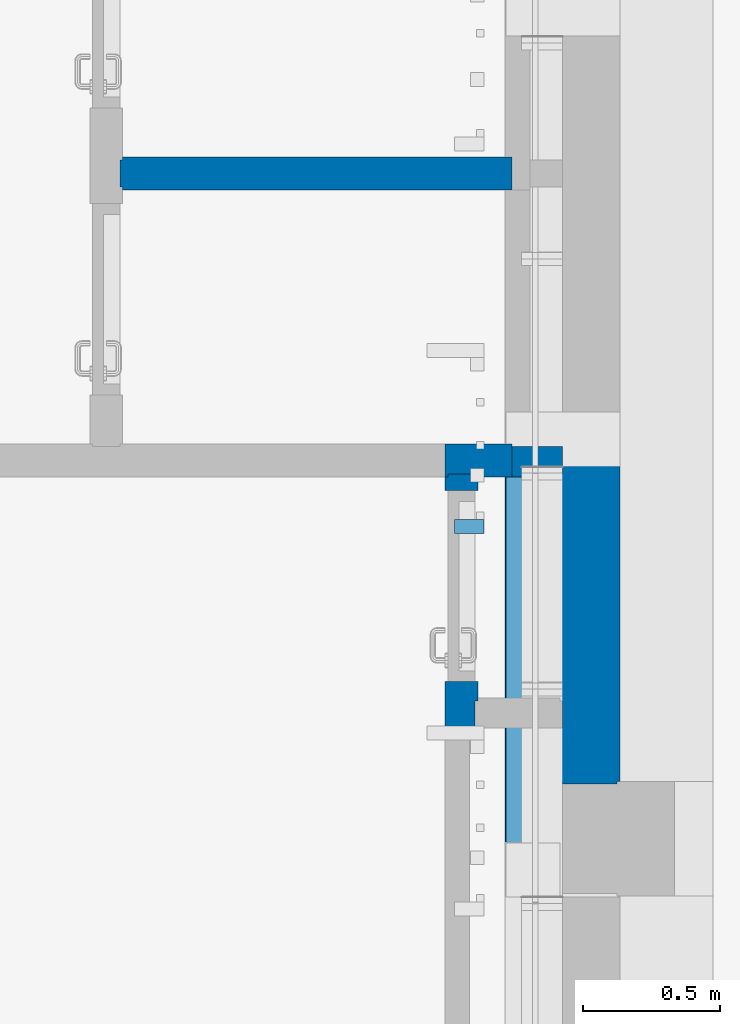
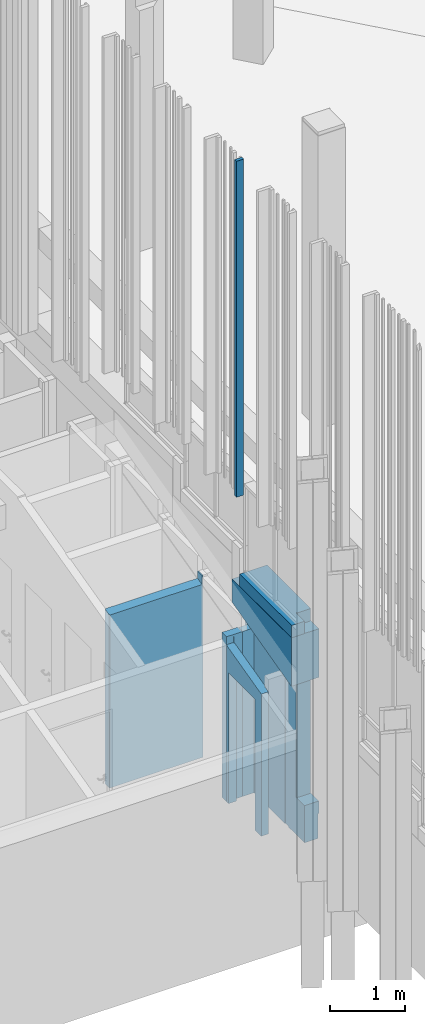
# One storey, part 119 of 390: 8 walls.
"""IFC2X3 building model written with IfcOpenShell, lengths in millimetres."""

from ifc_helpers import new_model, entity, si_unit, converted_unit, derived_unit, money_unit, direction, frame, origin_with_axes, place, context, subcontext, project, spatial, faceted_brep, material, material_list, type_object, element, save


model = new_model("IFC2X3")

# Units and contexts
model_context = context("Model", 3, precision=1e-05, world=origin_with_axes(), true_north=direction((0.0, 1.0)))
body_context = subcontext(model_context, "Body", "Model", "MODEL_VIEW")
ifc_project = project(units=[si_unit("LENGTHUNIT", "METRE", prefix="MILLI"), si_unit("AREAUNIT", "SQUARE_METRE"), si_unit("VOLUMEUNIT", "CUBIC_METRE"), converted_unit("PLANEANGLEUNIT", "DEGREE", entity("IfcPlaneAngleMeasure", 0.0174532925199), si_unit("PLANEANGLEUNIT", "RADIAN"), dimensions=[0, 0, 0, 0, 0, 0, 0]), si_unit("SOLIDANGLEUNIT", "STERADIAN"), money_unit("EUR"), converted_unit("TIMEUNIT", "Year", entity("IfcTimeMeasure", 31556926.0), si_unit("TIMEUNIT", "SECOND"), dimensions=[0, 0, 1, 0, 0, 0, 0]), si_unit("MASSUNIT", "GRAM", prefix="KILO"), si_unit("THERMODYNAMICTEMPERATUREUNIT", "DEGREE_CELSIUS"), si_unit("LUMINOUSINTENSITYUNIT", "LUMEN"), si_unit("ENERGYUNIT", "JOULE", prefix="MEGA"), derived_unit("THERMALCONDUCTANCEUNIT", [(si_unit("POWERUNIT", "WATT"), 1), (si_unit("LENGTHUNIT", "METRE"), -1), (si_unit("THERMODYNAMICTEMPERATUREUNIT", "KELVIN"), -1)]), derived_unit("SPECIFICHEATCAPACITYUNIT", [(si_unit("ENERGYUNIT", "JOULE"), 1), (si_unit("MASSUNIT", "GRAM", prefix="KILO"), -1), (si_unit("THERMODYNAMICTEMPERATUREUNIT", "KELVIN"), -1)]), derived_unit("MASSDENSITYUNIT", [(si_unit("MASSUNIT", "GRAM", prefix="KILO"), 1), (si_unit("VOLUMEUNIT", "CUBIC_METRE"), -1)])], contexts=[model_context])

# Site, building, storey
site_placement = place(None, origin_with_axes())
site = spatial("IfcSite", under=ifc_project, at=site_placement, Name="Site", CompositionType="ELEMENT")
building_placement = place(site_placement, origin_with_axes())
building = spatial("IfcBuilding", under=site, at=building_placement, Name="Building", CompositionType="ELEMENT")
storey_placement = place(building_placement, origin_with_axes())
storey = spatial("IfcBuildingStorey", under=building, at=storey_placement, Name="1 korrus", CompositionType="ELEMENT", Elevation=0.0)

# Walls
ifc_material_1 = material(Name="Krohv - Lubjakivi")
ifc_material_2 = material(Name="Raudbetoon - Konstruktsioon")
ifc_material_list_1 = material_list([ifc_material_1, ifc_material_2, ifc_material_1])
wall_type_1 = type_object("IfcWallType", Name="SS-10", PredefinedType="NOTDEFINED")
wall_1_placement = place(storey_placement, frame((122909.999995, 59662.5685601, -620.0), z_axis=(0.0, 0.0, 1.0), x_axis=(0.0, 1.0, 0.0)))
element("IfcWall", 1, at=wall_1_placement, inside=storey, type_object=wall_type_1, material=ifc_material_list_1, Name="SS-10", context=body_context, shape_type="Brep", body=[
    faceted_brep([(1575.0, 220.000000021, 3013.57978723), (1575.0, 210.000000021, 3013.57978723), (1575.0, 210.000000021, 0.0), (1575.0, 220.000000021, 0.0), (222.431452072, 210.000000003, 2661.006664), (222.431452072, 219.999998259, 2661.006664), (222.431452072, 210.000000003, 600.0), (212.431452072, 209.999998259, 600.0), (-2.81374923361e-09, 209.999998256, 600.0), (-2.81374923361e-09, 210.0, 0.0), (417.43145005, 210.000000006, 0.0), (417.43145005, 210.000000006, 2500.0), (517.43145005, 210.000000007, 2500.0), (517.43145005, 210.000000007, 0.0), (1347.4314428, 210.000000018, 0.0), (1347.4314428, 210.000000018, 2672.90848696), (1447.4314428, 210.000000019, 2672.90848696), (1447.4314428, 210.000000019, 0.0), (1447.4314428, 220.000000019, 0.0), (1447.4314428, 220.000000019, 2672.90848696), (1347.4314428, 220.000000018, 2672.90848696), (1347.4314428, 220.000000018, 0.0), (517.43145005, 220.000000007, 0.0), (517.43145005, 220.000000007, 2500.0), (417.43145005, 220.000000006, 2500.0), (417.43145005, 220.000000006, 0.0), (-2.9487523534e-09, 220.0, 0.0), (-2.9487523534e-09, 219.999998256, 600.0), (222.431452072, 219.999998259, 600.0)], [[[0, 1, 2, 3]], [[4, 1, 0, 5]], [[1, 4, 6, 7, 8, 9, 10, 11, 12, 13, 14, 15, 16, 17, 2]], [[3, 2, 17, 18]], [[5, 0, 3, 18, 19, 20, 21, 22, 23, 24, 25, 26, 27, 28]], [[4, 5, 28, 6]], [[8, 7, 6, 28, 27]], [[9, 8, 27, 26]], [[9, 26, 25, 10]], [[25, 24, 11, 10]], [[24, 23, 12, 11]], [[23, 22, 13, 12]], [[13, 22, 21, 14]], [[21, 20, 15, 14]], [[20, 19, 16, 15]], [[19, 18, 17, 16]]]),
    faceted_brep([(1575.0, 210.000000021, 3013.57978723), (1575.0, 10.0000000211, 3013.57978721), (1575.0, 10.0000000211, 0.0), (1575.0, 210.000000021, 0.0), (212.431452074, 10.0000000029, 2658.39997079), (212.431452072, 209.999998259, 2658.3999708), (212.431452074, 10.0000000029, 600.0), (-1.35003119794e-10, 10.0, 600.0), (-1.35003119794e-10, 10.0, 0.0), (-2.81374923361e-09, 210.0, 0.0), (-2.81374923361e-09, 209.999998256, 600.0), (212.431452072, 209.999998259, 600.0)], [[[0, 1, 2, 3]], [[4, 1, 0, 5]], [[1, 4, 6, 7, 8, 2]], [[8, 9, 3, 2]], [[5, 0, 3, 9, 10, 11]], [[4, 5, 11, 6]], [[10, 7, 6, 11]], [[8, 7, 10, 9]]]),
    faceted_brep([(1575.0, 9.99999995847, 3013.57978721), (1575.0, 2.11173301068e-08, 3013.57978721), (1575.0, 2.11173301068e-08, 400.0), (1575.0, 9.99999705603, 400.0), (222.431452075, 2.98427949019e-09, 2661.00666398), (222.431452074, 9.99999951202, 2661.00666398), (222.431452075, 2.98427949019e-09, 600.0), (0.0, 0.0, 600.0), (0.0, 0.0, 400.0), (-1.35003119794e-10, 9.99999708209, 400.0), (-1.35003119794e-10, 9.99999730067, 600.0), (222.431452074, 9.99999703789, 600.0)], [[[0, 1, 2, 3]], [[4, 1, 0, 5]], [[1, 4, 6, 7, 8, 2]], [[8, 9, 3, 2]], [[5, 0, 3, 9, 10, 11]], [[4, 5, 11, 6]], [[7, 6, 11, 10]], [[8, 7, 10, 9]]]),
])
ifc_material_3 = material(Name="Membraan - Veekindel")
ifc_material_4 = material(Name="Soojustus - Plastik Kõva")
ifc_material_list_2 = material_list([ifc_material_3, ifc_material_3, ifc_material_4, ifc_material_4, ifc_material_2, ifc_material_1])
wall_type_2 = type_object("IfcWallType", Name="VS-03", PredefinedType="NOTDEFINED")
wall_2_placement = place(storey_placement, frame((122909.999995, 59662.5685601, 1983.02560869), z_axis=(0.0, 0.0, 1.0), x_axis=(0.0, 1.0, 0.0)))
element("IfcWall", 2, at=wall_2_placement, inside=storey, type_object=wall_type_2, material=ifc_material_list_2, Name="VS-03", context=body_context, shape_type="Brep", body=[
    faceted_brep([(-1.25339738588e-08, 415.0, 2.67386113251e-08), (1574.99999999, 415.000000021, 410.554178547), (1574.99999999, 415.000000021, 786.974391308), (-5.563549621e-09, 415.0, 786.974391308), (1574.99999999, 420.000000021, 410.554178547), (-1.26831878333e-08, 420.0, 2.70610200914e-08), (1574.99999999, 420.000000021, 786.974391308), (-5.62749846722e-09, 420.0, 786.974391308)], [[[0, 1, 2, 3]], [[4, 1, 0, 5]], [[1, 4, 6, 2]], [[3, 2, 6, 7]], [[5, 0, 3, 7]], [[4, 5, 7, 6]]]),
    faceted_brep([(-1.23776544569e-08, 410.0, 2.64166466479e-08), (1574.99999999, 410.000000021, 410.554178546), (1574.99999999, 410.000000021, 786.974391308), (-5.49249534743e-09, 410.0, 786.974391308), (1574.99999999, 415.000000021, 410.554178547), (-1.25339738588e-08, 415.0, 2.67386113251e-08), (1574.99999999, 415.000000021, 786.974391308), (-5.563549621e-09, 415.0, 786.974391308)], [[[0, 1, 2, 3]], [[4, 1, 0, 5]], [[1, 4, 6, 2]], [[3, 2, 6, 7]], [[5, 0, 3, 7]], [[4, 5, 7, 6]]]),
    faceted_brep([(-1.08713038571e-08, 360.0, 2.31950014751e-08), (1574.99999999, 360.000000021, 410.554178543), (1574.99999999, 360.000000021, 786.974391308), (-4.82458517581e-09, 360.0, 786.974391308), (1574.99999999, 410.000000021, 410.554178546), (-1.23776544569e-08, 410.0, 2.64166466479e-08), (1574.99999999, 410.000000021, 786.974391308), (-5.49249534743e-09, 410.0, 786.974391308)], [[[0, 1, 2, 3]], [[4, 1, 0, 5]], [[1, 4, 6, 2]], [[3, 2, 6, 7]], [[5, 0, 3, 7]], [[4, 5, 7, 6]]]),
    faceted_brep([(-6.33804120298e-09, 210.0, 1.35309541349e-08), (1574.99999999, 210.000000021, 410.554178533), (1574.99999999, 210.000000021, 786.974391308), (-2.81374923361e-09, 210.0, 786.974391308), (1574.99999999, 360.000000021, 410.554178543), (-1.08713038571e-08, 360.0, 2.31950014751e-08), (1574.99999999, 360.000000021, 786.974391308), (-4.82458517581e-09, 360.0, 786.974391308)], [[[0, 1, 2, 3]], [[4, 1, 0, 5]], [[1, 4, 6, 2]], [[3, 2, 6, 7]], [[5, 0, 3, 7]], [[4, 5, 7, 6]]]),
    faceted_brep([(-3.05533376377e-10, 10.0, 6.45483666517e-10), (1574.99999999, 10.0000000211, 410.554178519), (1574.99999999, 10.0000000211, 786.974391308), (-1.35003119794e-10, 10.0, 786.974391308), (1574.99999999, 210.000000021, 410.554178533), (-6.33804120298e-09, 210.0, 1.35309541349e-08), (1574.99999999, 210.000000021, 786.974391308), (-2.81374923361e-09, 210.0, 786.974391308)], [[[0, 1, 2, 3]], [[4, 1, 0, 5]], [[1, 4, 6, 2]], [[3, 2, 6, 7]], [[5, 0, 3, 7]], [[4, 5, 7, 6]]]),
    faceted_brep([(0.0, 0.0, 0.0), (1574.99999999, 2.11173301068e-08, 410.554178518), (1574.99999999, 2.11173301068e-08, 786.974391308), (0.0, 0.0, 786.974391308), (1574.99999999, 10.0000000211, 410.554178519), (-3.05533376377e-10, 10.0, 6.45483666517e-10), (1574.99999999, 10.0000000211, 786.974391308), (-1.35003119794e-10, 10.0, 786.974391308)], [[[0, 1, 2, 3]], [[4, 1, 0, 5]], [[1, 4, 6, 2]], [[3, 2, 6, 7]], [[5, 0, 3, 7]], [[4, 5, 7, 6]]]),
])
ifc_material_5 = material(Name="Site specified")
wall_type_3 = type_object("IfcWallType", Name="Puitfassaadi ribistik", PredefinedType="NOTDEFINED")
wall_3_placement = place(storey_placement, frame((122358.499996, 60817.9999924, 4424.99966101), z_axis=(0.0, 0.0, 1.0), x_axis=(0.0, 1.0, 0.0)))
element("IfcWall", 3, at=wall_3_placement, inside=storey, type_object=wall_type_3, material=ifc_material_5, Name="Site specified", context=body_context, shape_type="Brep", body=[
    faceted_brep([(25.0, 54.5, 5440.00033899), (25.0, 54.5, 0.0), (-25.0, 54.5, 0.0), (-25.0, 54.5, 5440.00033899), (25.0, -54.5, 5440.00033899), (25.0, -54.5, 0.0), (-25.0, -54.5, 0.0), (-25.0, -54.5, 5440.00033899)], [[[0, 1, 2, 3]], [[4, 5, 1, 0]], [[2, 1, 5, 6]], [[3, 2, 6, 7]], [[4, 0, 3, 7]], [[7, 6, 5, 4]]]),
])
ifc_material_6 = material(Name="Plaat - Sein")
ifc_material_list_3 = material_list([ifc_material_6, ifc_material_4, ifc_material_4, ifc_material_2, ifc_material_1])
wall_type_4 = type_object("IfcWallType", Name="VS-05", PredefinedType="NOTDEFINED")
wall_4_placement = place(storey_placement, frame((122909.999995, 59660.137108, 2770.0), z_axis=(0.0, 0.0, 1.0), x_axis=(0.0, 1.0, 0.0)))
element("IfcWall", 4, at=wall_4_placement, inside=storey, type_object=wall_type_4, material=ifc_material_list_3, Name="VS-05", context=body_context, shape_type="Brep", body=[
    faceted_brep([(1377.43145207, 418.000000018, 0.0), (1377.43145207, 410.000000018, 0.0), (-5.49249534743e-09, 410.0, 0.0), (-5.59907675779e-09, 418.0, 0.0), (1377.43145207, 418.000000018, 200.0), (1377.43145207, 410.000000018, 200.0), (-5.49249534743e-09, 410.0, 200.0), (-5.59907675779e-09, 418.0, 200.0)], [[[0, 1, 2, 3]], [[0, 4, 5, 1]], [[1, 5, 6, 2]], [[3, 2, 6, 7]], [[4, 0, 3, 7]], [[5, 4, 7, 6]]]),
    faceted_brep([(1377.43145207, 410.000000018, 0.0), (1377.43145208, 360.000000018, 0.0), (-4.82458517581e-09, 360.0, 0.0), (-5.49249534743e-09, 410.0, 0.0), (1377.43145207, 410.000000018, 200.0), (1377.43145208, 360.000000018, 200.0), (-4.82458517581e-09, 360.0, 200.0), (-5.49249534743e-09, 410.0, 200.0)], [[[0, 1, 2, 3]], [[0, 4, 5, 1]], [[1, 5, 6, 2]], [[3, 2, 6, 7]], [[4, 0, 3, 7]], [[5, 4, 7, 6]]]),
    faceted_brep([(-2.9487523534e-09, 219.999998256, 200.0), (224.862904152, 219.999998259, 200.0), (224.862904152, 210.000000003, 200.0), (1377.43145208, 210.000000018, 200.0), (1377.43145208, 360.000000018, 200.0), (-4.82458517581e-09, 360.0, 200.0), (-2.9487523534e-09, 219.999998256, 0.0), (224.862904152, 219.999998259, 0.0), (224.862904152, 210.000000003, 0.0), (1377.43145208, 210.000000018, 0.0), (1377.43145208, 360.000000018, 0.0), (-4.82458517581e-09, 360.0, 0.0)], [[[0, 1, 2, 3, 4, 5]], [[1, 0, 6, 7]], [[8, 2, 1, 7]], [[2, 8, 9, 3]], [[9, 10, 4, 3]], [[5, 4, 10, 11]], [[6, 0, 5, 11]], [[7, 6, 11, 10, 9, 8]]]),
    faceted_brep([(214.862904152, 209.999998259, 200.0), (214.862904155, 10.0000000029, 200.0), (1377.43145208, 10.0000000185, 200.0), (1377.43145208, 210.000000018, 200.0), (214.862904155, 10.0000000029, 0.0), (214.862904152, 209.999998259, 0.0), (1377.43145208, 10.0000000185, 0.0), (1377.43145208, 210.000000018, 0.0)], [[[0, 1, 2, 3]], [[4, 1, 0, 5]], [[1, 4, 6, 2]], [[6, 7, 3, 2]], [[5, 0, 3, 7]], [[4, 5, 7, 6]]]),
    faceted_brep([(224.862904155, 10.000000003, 200.0), (224.862904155, 3.01270119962e-09, 200.0), (1377.43145208, 1.8459900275e-08, 200.0), (1377.43145208, 10.0000000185, 200.0), (224.862904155, 3.01270119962e-09, 0.0), (224.862904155, 10.000000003, 0.0), (1377.43145208, 1.8459900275e-08, 0.0), (1377.43145208, 10.0000000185, 0.0)], [[[0, 1, 2, 3]], [[4, 1, 0, 5]], [[1, 4, 6, 2]], [[6, 7, 3, 2]], [[5, 0, 3, 7]], [[4, 5, 7, 6]]]),
])
ifc_material_7 = material(Name="Müüriplokk - Konstuktsioon")
ifc_material_list_4 = material_list([ifc_material_1, ifc_material_7, ifc_material_1])
wall_type_5 = type_object("IfcWallType", Name="SS-07", PredefinedType="NOTDEFINED")
wall_5_placement = place(storey_placement, frame((122269.999996, 61000.0000029, -620.0), z_axis=(0.0, 0.0, 1.0), x_axis=(1.0, 0.0, 0.0)))
element("IfcWall", 5, at=wall_5_placement, inside=storey, type_object=wall_type_5, material=ifc_material_list_4, Name="SS-07", context=body_context, shape_type="Brep", body=[
    faceted_brep([(244.000003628, 110.000000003, 0.0), (-1.47792889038e-09, 110.0, 0.0), (-1.60582658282e-09, 120.0, 0.0), (244.000003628, 120.000000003, 0.0), (244.000003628, 110.000000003, 2672.90848696), (-1.47792889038e-09, 110.0, 2672.90848696), (-1.60582658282e-09, 120.0, 2672.90848696), (244.000003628, 120.000000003, 2672.90848696)], [[[0, 1, 2, 3]], [[4, 5, 1, 0]], [[2, 1, 5, 6]], [[3, 2, 6, 7]], [[3, 7, 4, 0]], [[7, 6, 5, 4]]]),
    faceted_brep([(244.000003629, 10.0000000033, 0.0), (-1.27897692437e-10, 10.0, 0.0), (-1.47792889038e-09, 110.0, 0.0), (244.000003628, 110.000000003, 0.0), (244.000003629, 10.0000000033, 2672.90848696), (-1.27897692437e-10, 10.0, 2672.90848696), (-1.47792889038e-09, 110.0, 2672.90848696), (244.000003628, 110.000000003, 2672.90848696)], [[[0, 1, 2, 3]], [[4, 5, 1, 0]], [[2, 1, 5, 6]], [[3, 2, 6, 7]], [[3, 7, 4, 0]], [[7, 6, 5, 4]]]),
    faceted_brep([(10.0, 10.0000055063, 2641.62816777), (10.0, 10.0000055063, 0.0), (-1.27897692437e-10, 10.0, 0.0), (-1.27897692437e-10, 10.0, 2672.90848696), (244.000003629, 10.0000000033, 2672.90848696), (244.000003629, 10.0000000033, 0.0), (110.0, 10.0000055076, 0.0), (110.0, 10.0000055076, 2641.62816777), (9.99999998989, 1.35003119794e-10, 2641.62816777), (10.0000000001, 1.35003119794e-10, 0.0), (0.0, 0.0, 0.0), (0.0, 0.0, 2672.90848696), (244.00000363, 3.27560201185e-09, 2672.90848696), (244.00000363, 3.27560201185e-09, 0.0), (110.0, 1.47792889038e-09, 0.0), (110.000000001, 1.47792889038e-09, 2641.62816777)], [[[0, 1, 2, 3, 4, 5, 6, 7]], [[1, 0, 8, 9]], [[1, 9, 10, 2]], [[3, 2, 10, 11]], [[12, 4, 3, 11]], [[13, 5, 4, 12]], [[14, 6, 5, 13]], [[7, 6, 14, 15]], [[0, 7, 15, 8]], [[15, 14, 13, 12, 11, 10, 9, 8]]]),
])
ifc_material_list_5 = material_list([ifc_material_7, ifc_material_1])
wall_6_placement = place(storey_placement, frame((122514.0, 61110.0000029, -620.0), z_axis=(0.0, 0.0, 1.0), x_axis=(1.0, 0.0, 0.0)))
element("IfcWall", 6, at=wall_6_placement, inside=storey, type_object=wall_type_5, material=ifc_material_list_5, Name="SS-08", context=body_context, shape_type="Brep", body=[
    faceted_brep([(185.999995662, 2.50111042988e-09, 2672.90848696), (0.0, 0.0, 2672.90848696), (1.33582034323e-09, -100.0, 2672.90848696), (185.999995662, -99.9999999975, 2672.90848696), (185.999995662, 2.50111042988e-09, 0.0), (0.0, 0.0, 0.0), (1.33582034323e-09, -100.0, 0.0), (185.999995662, -99.9999999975, 0.0)], [[[0, 1, 2, 3]], [[4, 5, 1, 0]], [[2, 1, 5, 6]], [[3, 2, 6, 7]], [[3, 7, 4, 0]], [[7, 6, 5, 4]]]),
    faceted_brep([(175.999995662, -99.9999999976, 2672.90848696), (1.33582034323e-09, -100.0, 2672.90848696), (1.47792889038e-09, -110.0, 2672.90848696), (175.999995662, -109.999999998, 2672.90848696), (175.999995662, -99.9999999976, 0.0), (1.33582034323e-09, -100.0, 0.0), (1.47792889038e-09, -110.0, 0.0), (175.999995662, -109.999999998, 0.0)], [[[0, 1, 2, 3]], [[4, 5, 1, 0]], [[2, 1, 5, 6]], [[3, 2, 6, 7]], [[3, 7, 4, 0]], [[7, 6, 5, 4]]]),
])
wall_7_placement = place(storey_placement, frame((121079.999992, 62170.00001, -620.0), z_axis=(0.0, 0.0, 1.0), x_axis=(1.0, 0.0, 0.0)))
element("IfcWall", 7, at=wall_7_placement, inside=storey, type_object=wall_type_5, material=ifc_material_list_4, Name="SS-07", context=body_context, shape_type="Brep", body=[
    faceted_brep([(10.0, 0.0, 2832.04614431), (1420.00000772, 0.0, 2832.04614431), (1420.00000772, 0.0, 2946.61127132), (1434.00000625, 0.0, 2946.61127132), (1434.0000073, 0.0, 0.0), (10.0, 0.0, 0.0), (10.0, -10.0, 2829.50646785), (1420.00000772, -10.0, 2829.50646785), (1420.00000772, -10.0, 2946.61127132), (1434.00000624, -10.0, 2946.61127132), (1434.0000073, -10.0, 0.0), (10.0, -10.0, 0.0)], [[[0, 1, 2, 3, 4, 5]], [[1, 0, 6, 7]], [[8, 2, 1, 7]], [[2, 8, 9, 3]], [[4, 3, 9, 10]], [[5, 4, 10, 11]], [[6, 0, 5, 11]], [[7, 6, 11, 10, 9, 8]]]),
    faceted_brep([(0.0, -10.0, 2829.50646785), (1420.00000772, -10.0, 2829.50646785), (1420.00000772, -10.0, 2946.61127132), (1434.00000624, -10.0, 2946.61127132), (1434.0000073, -10.0, 0.0), (0.0, -10.0, 0.0), (0.0, -110.0, 2804.1097032), (1420.0000077, -110.0, 2804.1097032), (1420.0000077, -110.0, 2946.61127132), (1434.00000615, -110.0, 2946.61127132), (1434.0000073, -110.0, 0.0), (0.0, -110.0, 0.0)], [[[0, 1, 2, 3, 4, 5]], [[1, 0, 6, 7]], [[8, 2, 1, 7]], [[2, 8, 9, 3]], [[4, 3, 9, 10]], [[5, 4, 10, 11]], [[6, 0, 5, 11]], [[7, 6, 11, 10, 9, 8]]]),
    faceted_brep([(10.0, -110.0, 2804.1097032), (1420.0000077, -110.0, 2804.1097032), (1420.0000077, -110.0, 2946.61127132), (1434.00000615, -110.0, 2946.61127132), (1434.0000073, -110.0, 0.0), (10.0, -110.0, 0.0), (10.0, -120.0, 2801.57002674), (1420.0000077, -120.0, 2801.57002674), (1420.0000077, -120.0, 2946.61127132), (1434.00000614, -120.0, 2946.61127132), (1434.0000073, -120.0, 0.0), (10.0, -120.0, 0.0)], [[[0, 1, 2, 3, 4, 5]], [[1, 0, 6, 7]], [[8, 2, 1, 7]], [[2, 8, 9, 3]], [[4, 3, 9, 10]], [[5, 4, 10, 11]], [[6, 0, 5, 11]], [[7, 6, 11, 10, 9, 8]]]),
])
wall_8_placement = place(storey_placement, frame((122389.999996, 61010.0000084, -620.0), z_axis=(0.0, 0.0, 1.0), x_axis=(0.0, -1.0, 0.0)))
element("IfcWall", 8, at=wall_8_placement, inside=storey, type_object=wall_type_5, material=ifc_material_list_4, Name="SS-07", context=body_context, shape_type="Brep", body=[
    faceted_brep([(10.0000055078, -9.99999999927, 2534.90399614), (10.0000055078, -9.10915787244e-09, 2534.90399614), (10.0000055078, 1.27897692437e-10, 0.0), (10.0000055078, -9.99999999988, 0.0), (829.999998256, -8.21628987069e-07, 2326.65052787), (829.999998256, -9.99999993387, 2326.65052787), (829.999998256, 1.1127099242e-08, 0.0), (759.999998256, 1.01891828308e-08, 0.0), (759.999998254, -8.84611495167e-07, 20.0), (759.999998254, 1.01891828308e-08, 2120.0), (59.9999982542, 7.95807864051e-10, 2120.0), (59.9999982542, -8.94004870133e-07, 20.0), (59.9999982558, 7.95807864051e-10, 0.0), (59.9999982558, -9.99999999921, 0.0), (59.9999982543, -9.99999994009, 20.0), (59.9999982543, -9.99999994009, 2120.0), (759.999998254, -9.9999999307, 2120.0), (759.999998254, -9.9999999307, 20.0), (759.999998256, -9.99999998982, 0.0), (829.999998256, -9.99999998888, 0.0)], [[[0, 1, 2, 3]], [[4, 1, 0, 5]], [[1, 4, 6, 7, 8, 9, 10, 11, 12, 2]], [[12, 13, 3, 2]], [[5, 0, 3, 13, 14, 15, 16, 17, 18, 19]], [[4, 5, 19, 6]], [[18, 7, 6, 19]], [[18, 17, 8, 7]], [[16, 9, 8, 17]], [[15, 10, 9, 16]], [[14, 11, 10, 15]], [[12, 11, 14, 13]]]),
    faceted_brep([(5.50777201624e-06, -110.0, 2537.44367261), (5.50777912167e-06, -10.0, 2537.44367261), (5.50777912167e-06, -10.0, 0.0), (5.50777201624e-06, -110.0, 0.0), (929.999998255, -9.99999993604, 2301.25376323), (929.999998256, -110.000000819, 2301.25376323), (929.999998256, -9.99999998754, 0.0), (759.999998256, -9.99999998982, 0.0), (759.999998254, -9.9999999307, 20.0), (759.999998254, -9.99999998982, 2120.0), (59.9999982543, -9.99999999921, 2120.0), (59.9999982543, -9.99999994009, 20.0), (59.9999982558, -9.99999999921, 0.0), (59.9999982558, -109.999999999, 0.0), (59.9999982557, -109.999999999, 20.0), (59.9999982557, -109.999999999, 2120.0), (759.999998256, -109.99999999, 2120.0), (759.999998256, -109.99999999, 20.0), (759.999998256, -109.99999999, 0.0), (929.999998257, -109.999999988, 0.0)], [[[0, 1, 2, 3]], [[4, 1, 0, 5]], [[1, 4, 6, 7, 8, 9, 10, 11, 12, 2]], [[12, 13, 3, 2]], [[5, 0, 3, 13, 14, 15, 16, 17, 18, 19]], [[4, 5, 19, 6]], [[18, 7, 6, 19]], [[18, 17, 8, 7]], [[16, 9, 8, 17]], [[15, 10, 9, 16]], [[14, 11, 10, 15]], [[12, 11, 14, 13]]]),
    faceted_brep([(10.0000055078, -120.0, 2534.90399614), (10.0000055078, -110.00000001, 2534.90399614), (10.0000055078, -110.0, 0.0), (10.0000055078, -120.0, 0.0), (929.999998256, -110.000000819, 2301.25376323), (929.999998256, -119.999999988, 2301.25376323), (929.999998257, -109.999999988, 0.0), (759.999998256, -109.99999999, 0.0), (759.999998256, -109.99999999, 20.0), (759.999998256, -109.99999999, 2120.0), (59.9999982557, -109.999999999, 2120.0), (59.9999982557, -109.999999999, 20.0), (59.9999982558, -109.999999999, 0.0), (59.9999982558, -119.999999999, 0.0), (59.9999982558, -119.999999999, 20.0), (59.9999982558, -119.999999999, 2120.0), (759.999998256, -119.99999999, 2120.0), (759.999998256, -119.99999999, 20.0), (759.999998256, -119.99999999, 0.0), (929.999998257, -119.999999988, 0.0)], [[[0, 1, 2, 3]], [[4, 1, 0, 5]], [[1, 4, 6, 7, 8, 9, 10, 11, 12, 2]], [[12, 13, 3, 2]], [[5, 0, 3, 13, 14, 15, 16, 17, 18, 19]], [[4, 5, 19, 6]], [[18, 7, 6, 19]], [[18, 17, 8, 7]], [[16, 9, 8, 17]], [[15, 10, 9, 16]], [[14, 11, 10, 15]], [[12, 11, 14, 13]]]),
])

save(model, "model.ifc")
